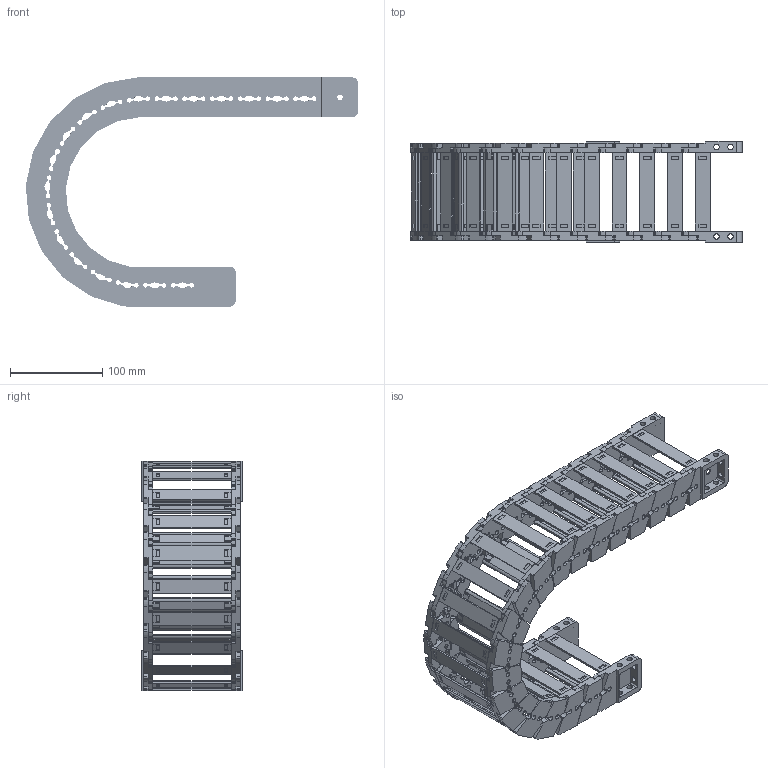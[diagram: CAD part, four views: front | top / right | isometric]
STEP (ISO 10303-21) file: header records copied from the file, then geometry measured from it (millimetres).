
FILE_DESCRIPTION((''),'2;1');
FILE_NAME('JY-35X77-R100_ASM','2025-07-23T15:58:44',('admin'),(''),'CREO PARAMETRIC BY PTC INC, 2021023','CREO PARAMETRIC BY PTC INC, 2021023','');
FILE_SCHEMA(('CONFIG_CONTROL_DESIGN','GEOMETRIC_VALIDATION_PROPERTIES_MIM'));
Length unit declared in the file: millimetre
Products named in the file (12): 35XL-L_1; YP_2; 35XL-R_1; ASM0001_ASM_2_ASM; 35-LTT-A-L_1; 35-LTT-A-R_1; 35XL-LTT-A_ASM_2_ASM; 35-LTT-B-L_1; 35-LTT-B-R_1; 35XL-LTT-B_ASM_2_ASM; JY-35X77-R100_ASM_5_ASM; JY-35X77-R100_ASM
Assembly tree (33 placements, depth 4):
  JY-35X77-R100_ASM
    JY-35X77-R100_ASM_5_ASM
      ASM0001_ASM_2_ASM  x18
        35XL-L_1
        YP_2
        35XL-R_1
      35XL-LTT-A_ASM_2_ASM
        35-LTT-A-L_1
        YP_2  x2
        35-LTT-A-R_1
      35XL-LTT-B_ASM_2_ASM
        35-LTT-B-L_1
        YP_2  x2
        35-LTT-B-R_1
Bounding box: 359.13 x 108.9 x 247.81 mm (x, y, z)
Volume: 610945.3 mm3; surface area: 363282.4 mm2
Topology: 80 solids, 80 shells, 5202 faces, 15624 edges, 10510 vertices
Faces by surface type: plane 2728, cylinder 2132, extrusion 152, bspline 114, cone 76
Entity records: 24372 total; most frequent: CARTESIAN_POINT 5400, ORIENTED_EDGE 3882, DIRECTION 3666, EDGE_CURVE 1941, VERTEX_POINT 1303, AXIS2_PLACEMENT_3D 1239, VECTOR 1188, LINE 1172
